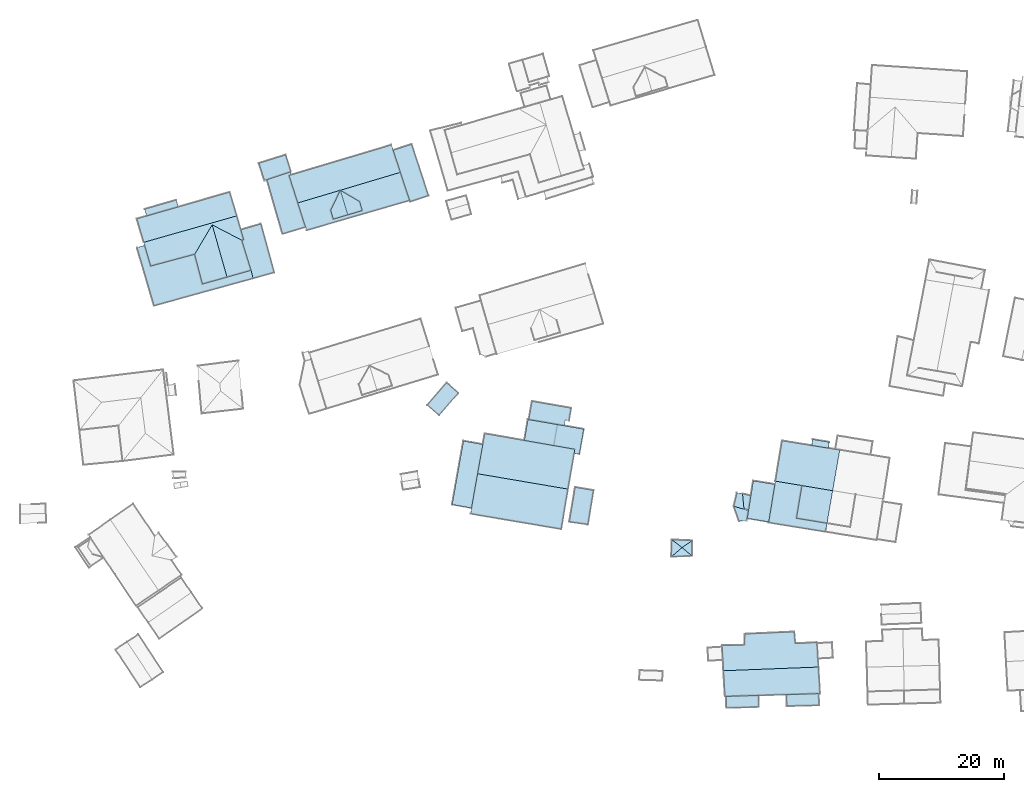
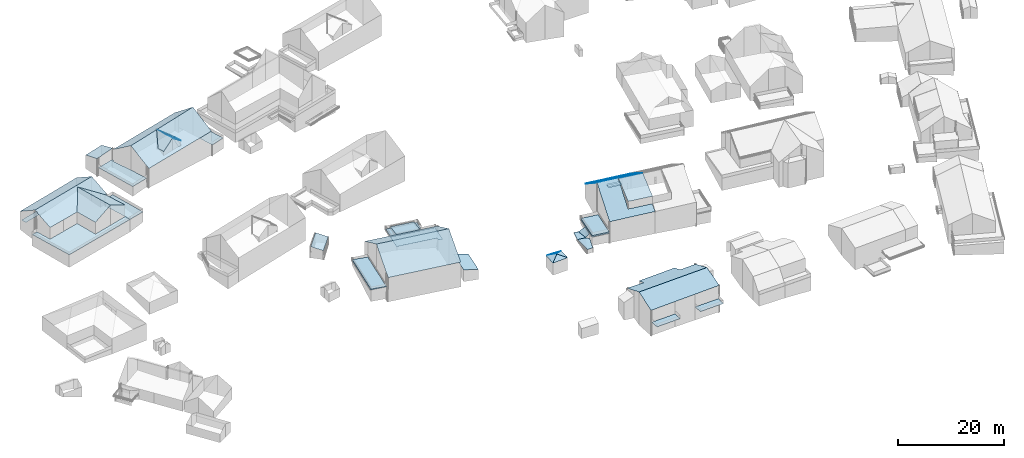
# Not in any storey, part 52 of 57: 81 roofs.
"""IFC2X3 building model written with IfcOpenShell, lengths in metres."""

from ifc_helpers import new_model, entity, si_unit, converted_unit, frame, origin, place, context, subcontext, project, spatial, face_set, surface_model, element, save


model = new_model("IFC2X3")

# Units and contexts
model_context = context("Model", 3, precision=1e-05, world=origin())
body_context = subcontext(model_context, "Body", "Model", "MODEL_VIEW")
ifc_project = project(units=[converted_unit("PLANEANGLEUNIT", "DEGREE", entity("IfcRatioMeasure", 0.0174532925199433), si_unit("PLANEANGLEUNIT", "RADIAN"), dimensions=[0, 0, 0, 0, 0, 0, 0]), si_unit("AREAUNIT", "SQUARE_METRE"), si_unit("LENGTHUNIT", "METRE")], contexts=[model_context])

# Site, building
site_placement = place(None, origin())
site = spatial("IfcSite", under=ifc_project, at=site_placement, Name="_site", CompositionType="ELEMENT")
building_1_placement = place(site_placement, origin())
building_1 = spatial("IfcBuilding", under=site, at=building_1_placement, Name="_building", CompositionType="ELEMENT")

# Roofs
for number, where, name in (
    (1, (0.0, 0.0, 0.0), "Roof"),
    (2, (0.0, 0.0, 0.0), "Roof"),
):
    element("IfcRoof", number, at=place(building_1_placement, frame(where)), inside=building_1, Name=name, ShapeType="NOTDEFINED", context=body_context, shape_type="SurfaceModel", body=[
        surface_model("IfcFaceBasedSurfaceModel", [(137.156, 142.581, 118.75), (138.632, 138.094, 118.74), (138.698, 137.892, 118.75), (141.642, 138.854, 118.75), (138.963, 147.072, 118.75), (137.47, 146.587, 118.75), (136.008, 146.11, 118.75)], [face_set([[[0, 1, 2, 3, 4, 5, 6]]])]),
    ])

# Building
building_2_placement = place(site_placement, origin())
building_2 = spatial("IfcBuilding", under=site, at=building_2_placement, Name="_building", CompositionType="ELEMENT")

# Roofs
roof_1_placement = place(building_2_placement, origin())
element("IfcRoof", 3, at=roof_1_placement, inside=building_2, Name="Roof", ShapeType="NOTDEFINED", context=body_context, shape_type="SurfaceModel", body=[
    surface_model("IfcFaceBasedSurfaceModel", [(183.722, 81.324, 111.21), (183.759, 83.774, 111.23), (182.132, 82.662, 111.82)], [face_set([[[0, 1, 2]]])]),
])
roof_2_placement = place(building_2_placement, origin())
element("IfcRoof", 4, at=roof_2_placement, inside=building_2, Name="Roof", ShapeType="NOTDEFINED", context=body_context, shape_type="SurfaceModel", body=[
    surface_model("IfcFaceBasedSurfaceModel", [(182.132, 82.662, 111.82), (180.491, 83.921, 111.23), (180.427, 81.201, 111.18)], [face_set([[[0, 1, 2]]])]),
])
roof_3_placement = place(building_2_placement, origin())
element("IfcRoof", 5, at=roof_3_placement, inside=building_2, Name="Roof", ShapeType="NOTDEFINED", context=body_context, shape_type="SurfaceModel", body=[
    surface_model("IfcFaceBasedSurfaceModel", [(180.427, 81.201, 111.18), (183.722, 81.324, 111.21), (182.132, 82.662, 111.82)], [face_set([[[0, 1, 2]]])]),
])
roof_4_placement = place(building_2_placement, origin())
element("IfcRoof", 6, at=roof_4_placement, inside=building_2, Name="Roof", ShapeType="NOTDEFINED", context=body_context, shape_type="SurfaceModel", body=[
    surface_model("IfcFaceBasedSurfaceModel", [(183.759, 83.774, 111.23), (180.491, 83.921, 111.23), (182.132, 82.662, 111.82)], [face_set([[[0, 1, 2]]])]),
])
roof_5_placement = place(building_2_placement, origin())
element("IfcRoof", 7, at=roof_5_placement, inside=building_2, Name="Roof", ShapeType="NOTDEFINED", context=body_context, shape_type="SurfaceModel", body=[
    surface_model("IfcFaceBasedSurfaceModel", [(183.722, 81.324, 111.21), (183.759, 83.774, 111.23), (182.132, 82.662, 111.82)], [face_set([[[0, 1, 2]]])]),
])
roof_6_placement = place(building_2_placement, origin())
element("IfcRoof", 8, at=roof_6_placement, inside=building_2, Name="Roof", ShapeType="NOTDEFINED", context=body_context, shape_type="SurfaceModel", body=[
    surface_model("IfcFaceBasedSurfaceModel", [(182.132, 82.662, 111.82), (180.491, 83.921, 111.23), (180.427, 81.201, 111.18)], [face_set([[[0, 1, 2]]])]),
])
roof_7_placement = place(building_2_placement, origin())
element("IfcRoof", 9, at=roof_7_placement, inside=building_2, Name="Roof", ShapeType="NOTDEFINED", context=body_context, shape_type="SurfaceModel", body=[
    surface_model("IfcFaceBasedSurfaceModel", [(180.427, 81.201, 111.18), (183.722, 81.324, 111.21), (182.132, 82.662, 111.82)], [face_set([[[0, 1, 2]]])]),
])
roof_8_placement = place(building_2_placement, origin())
element("IfcRoof", 10, at=roof_8_placement, inside=building_2, Name="Roof", ShapeType="NOTDEFINED", context=body_context, shape_type="SurfaceModel", body=[
    surface_model("IfcFaceBasedSurfaceModel", [(183.759, 83.774, 111.23), (180.491, 83.921, 111.23), (182.132, 82.662, 111.82)], [face_set([[[0, 1, 2]]])]),
])

# Building
building_3_placement = place(site_placement, origin())
building_3 = spatial("IfcBuilding", under=site, at=building_3_placement, Name="_building", CompositionType="ELEMENT")

# Roofs
roof_9_placement = place(building_3_placement, origin())
element("IfcRoof", 11, at=roof_9_placement, inside=building_3, Name="Roof", ShapeType="NOTDEFINED", context=body_context, shape_type="SurfaceModel", body=[
    surface_model("IfcFaceBasedSurfaceModel", [(96.318, 130.92, 117.72), (95.099, 130.568, 117.72), (97.824, 121.278, 117.72), (113.626, 125.643, 117.72), (113.305, 126.93, 117.72), (109.468, 125.839, 117.72), (105.549, 124.74, 117.72), (104.3, 129.492, 117.72), (97.291, 127.605, 117.72)], [face_set([[[0, 1, 2, 3, 4, 5, 6, 7, 8]]])]),
])
roof_10_placement = place(building_3_placement, origin())
element("IfcRoof", 12, at=roof_10_placement, inside=building_3, Name="Roof", ShapeType="NOTDEFINED", context=body_context, shape_type="SurfaceModel", body=[
    surface_model("IfcFaceBasedSurfaceModel", [(111.028, 135.628, 122.5), (109.915, 139.417, 120.34), (95.077, 135.161, 120.29), (96.18, 131.403, 122.5)], [face_set([[[0, 1, 2, 3]]])]),
])
roof_11_placement = place(building_3_placement, origin())
element("IfcRoof", 13, at=roof_11_placement, inside=building_3, Name="Roof", ShapeType="NOTDEFINED", context=body_context, shape_type="SurfaceModel", body=[
    surface_model("IfcFaceBasedSurfaceModel", [(111.837, 131.727, 120.35), (112.139, 131.8, 120.35), (111.676, 133.402, 121.25), (111.028, 135.628, 122.5), (96.18, 131.403, 122.5), (96.318, 130.92, 122.23), (96.337, 130.849, 122.19), (97.291, 127.605, 120.37), (100.796, 128.553, 120.37), (104.3, 129.492, 120.37), (107.092, 134.199, 122.34)], [face_set([[[0, 1, 2, 3, 4, 5, 6, 7, 8, 9, 10]]])]),
])
roof_12_placement = place(building_3_placement, origin())
element("IfcRoof", 14, at=roof_12_placement, inside=building_3, Name="Roof", ShapeType="NOTDEFINED", context=body_context, shape_type="SurfaceModel", body=[
    surface_model("IfcFaceBasedSurfaceModel", [(107.092, 134.199, 122.34), (109.468, 125.839, 122.34), (113.305, 126.93, 120.4), (111.837, 131.727, 120.35)], [face_set([[[0, 1, 2, 3]]])]),
])
roof_13_placement = place(building_3_placement, origin())
element("IfcRoof", 15, at=roof_13_placement, inside=building_3, Name="Roof", ShapeType="NOTDEFINED", context=body_context, shape_type="SurfaceModel", body=[
    surface_model("IfcFaceBasedSurfaceModel", [(96.318, 130.92, 117.72), (95.099, 130.568, 117.72), (97.824, 121.278, 117.72), (113.626, 125.643, 117.72), (113.305, 126.93, 117.72), (109.468, 125.839, 117.72), (105.549, 124.74, 117.72), (104.3, 129.492, 117.72), (97.291, 127.605, 117.72)], [face_set([[[0, 1, 2, 3, 4, 5, 6, 7, 8]]])]),
])
roof_14_placement = place(building_3_placement, origin())
element("IfcRoof", 16, at=roof_14_placement, inside=building_3, Name="Roof", ShapeType="NOTDEFINED", context=body_context, shape_type="SurfaceModel", body=[
    surface_model("IfcFaceBasedSurfaceModel", [(111.837, 131.727, 120.35), (112.139, 131.8, 120.35), (111.676, 133.402, 121.25), (111.028, 135.628, 122.5), (96.18, 131.403, 122.5), (96.318, 130.92, 122.23), (96.337, 130.849, 122.19), (97.291, 127.605, 120.37), (100.796, 128.553, 120.37), (104.3, 129.492, 120.37), (107.092, 134.199, 122.34)], [face_set([[[0, 1, 2, 3, 4, 5, 6, 7, 8, 9, 10]]])]),
])
roof_15_placement = place(building_3_placement, origin())
element("IfcRoof", 17, at=roof_15_placement, inside=building_3, Name="Roof", ShapeType="NOTDEFINED", context=body_context, shape_type="SurfaceModel", body=[
    surface_model("IfcFaceBasedSurfaceModel", [(107.092, 134.199, 122.34), (109.468, 125.839, 122.34), (113.305, 126.93, 120.4), (111.837, 131.727, 120.35)], [face_set([[[0, 1, 2, 3]]])]),
])
roof_16_placement = place(building_3_placement, origin())
element("IfcRoof", 18, at=roof_16_placement, inside=building_3, Name="Roof", ShapeType="NOTDEFINED", context=body_context, shape_type="SurfaceModel", body=[
    surface_model("IfcFaceBasedSurfaceModel", [(111.028, 135.628, 122.5), (109.915, 139.417, 120.34), (95.077, 135.161, 120.29), (96.18, 131.403, 122.5)], [face_set([[[0, 1, 2, 3]]])]),
])
roof_17_placement = place(building_3_placement, origin())
element("IfcRoof", 19, at=roof_17_placement, inside=building_3, Name="Roof", ShapeType="NOTDEFINED", context=body_context, shape_type="SurfaceModel", body=[
    surface_model("IfcFaceBasedSurfaceModel", [(107.092, 134.199, 122.34), (104.3, 129.492, 120.37), (105.549, 124.74, 120.42), (109.468, 125.839, 122.34)], [face_set([[[0, 1, 2, 3]]])]),
])
for number, where, name in (
    (20, (0.0, 0.0, 0.0), "Roof"),
    (21, (0.0, 0.0, 0.0), "Roof"),
):
    element("IfcRoof", number, at=place(building_3_placement, frame(where)), inside=building_3, Name=name, ShapeType="NOTDEFINED", context=body_context, shape_type="SurfaceModel", body=[
        surface_model("IfcFaceBasedSurfaceModel", [(101.685, 137.058, 116.92), (101.371, 138.156, 116.92), (96.304, 136.703, 116.92), (96.618, 135.605, 116.92)], [face_set([[[0, 1, 2, 3]]])]),
    ])
roof_18_placement = place(building_3_placement, origin())
element("IfcRoof", 22, at=roof_18_placement, inside=building_3, Name="Roof", ShapeType="NOTDEFINED", context=body_context, shape_type="SurfaceModel", body=[
    surface_model("IfcFaceBasedSurfaceModel", [(107.092, 134.199, 122.34), (104.3, 129.492, 120.37), (105.549, 124.74, 120.42), (109.468, 125.839, 122.34)], [face_set([[[0, 1, 2, 3]]])]),
])

# Building
building_4_placement = place(site_placement, origin())
building_4 = spatial("IfcBuilding", under=site, at=building_4_placement, Name="_building", CompositionType="ELEMENT")

# Roofs
for number, where, name in (
    (23, (0.0, 0.0, 0.0), "Roof"),
    (24, (0.0, 0.0, 0.0), "Roof"),
):
    element("IfcRoof", number, at=place(building_4_placement, frame(where)), inside=building_4, Name=name, ShapeType="NOTDEFINED", context=body_context, shape_type="SurfaceModel", body=[
        surface_model("IfcFaceBasedSurfaceModel", [(143.323, 103.783, 113.35), (146.407, 107.333, 113.35), (144.525, 108.978, 113.95), (141.44, 105.418, 113.95)], [face_set([[[0, 1, 2, 3]]])]),
    ])

# Building
building_5_placement = place(site_placement, origin())
building_5 = spatial("IfcBuilding", under=site, at=building_5_placement, Name="_building", CompositionType="ELEMENT")

# Roofs
for number, where, name in (
    (25, (0.0, 0.0, 0.0), "Roof"),
    (26, (0.0, 0.0, 0.0), "Roof"),
):
    element("IfcRoof", number, at=place(building_5_placement, frame(where)), inside=building_5, Name=name, ShapeType="NOTDEFINED", context=body_context, shape_type="SurfaceModel", body=[
        surface_model("IfcFaceBasedSurfaceModel", [(113.305, 126.93, 117.72), (113.626, 125.643, 117.72), (117.02, 126.583, 117.72), (114.89, 134.347, 117.72), (113.348, 133.893, 117.72), (111.676, 133.402, 117.72), (112.139, 131.8, 117.72), (111.837, 131.727, 117.72)], [face_set([[[0, 1, 2, 3, 4, 5, 6, 7]]])]),
    ])

# Building
building_6_placement = place(site_placement, origin())
building_6 = spatial("IfcBuilding", under=site, at=building_6_placement, Name="_building", CompositionType="ELEMENT")

# Roofs
for number, where, name in (
    (27, (0.0, 0.0, 0.0), "Roof"),
    (28, (0.0, 0.0, 0.0), "Roof"),
):
    element("IfcRoof", number, at=place(building_6_placement, frame(where)), inside=building_6, Name=name, ShapeType="NOTDEFINED", context=body_context, shape_type="SurfaceModel", body=[
        surface_model("IfcFaceBasedSurfaceModel", [(164.137, 86.766, 111.96), (167.099, 86.336, 111.26), (168.007, 91.788, 111.26), (165.057, 92.287, 111.96)], [face_set([[[0, 1, 2, 3]]])]),
    ])

# Building
building_7_placement = place(site_placement, origin())
building_7 = spatial("IfcBuilding", under=site, at=building_7_placement, Name="_building", CompositionType="ELEMENT")

# Roofs
roof_19_placement = place(building_7_placement, origin())
element("IfcRoof", 29, at=roof_19_placement, inside=building_7, Name="Roof", ShapeType="NOTDEFINED", context=body_context, shape_type="SurfaceModel", body=[
    surface_model("IfcFaceBasedSurfaceModel", [(115.856, 141.4, 121.649), (119.537, 142.633, 121.737), (119.678, 142.68, 121.74), (118.84, 145.371, 121.11), (114.566, 144.031, 121.12), (115.462, 141.268, 121.64)], [face_set([[[0, 1, 2, 3, 4, 5]]])]),
])
for number, where, name in (
    (30, (0.0, 0.0, 0.0), "Roof"),
    (31, (0.0, 0.0, 0.0), "Roof"),
):
    element("IfcRoof", number, at=place(building_7_placement, frame(where)), inside=building_7, Name=name, ShapeType="NOTDEFINED", context=body_context, shape_type="SurfaceModel", body=[
        surface_model("IfcFaceBasedSurfaceModel", [(122.003, 133.841, 119.351), (120.772, 137.692, 119.351), (119.383, 142.067, 119.192), (119.717, 142.168, 119.18), (119.537, 142.633, 119.18), (115.856, 141.4, 119.351), (118.335, 132.745, 119.351)], [face_set([[[0, 1, 2, 3, 4, 5, 6]]])]),
    ])
roof_20_placement = place(building_7_placement, origin())
element("IfcRoof", 32, at=roof_20_placement, inside=building_7, Name="Roof", ShapeType="NOTDEFINED", context=body_context, shape_type="SurfaceModel", body=[
    surface_model("IfcFaceBasedSurfaceModel", [(115.856, 141.4, 121.649), (119.537, 142.633, 121.737), (119.678, 142.68, 121.74), (118.84, 145.371, 121.11), (114.566, 144.031, 121.12), (115.462, 141.268, 121.64)], [face_set([[[0, 1, 2, 3, 4, 5]]])]),
])

# Building
building_8_placement = place(site_placement, origin())
building_8 = spatial("IfcBuilding", under=site, at=building_8_placement, Name="_building", CompositionType="ELEMENT")

# Roofs
for number, where, name in (
    (33, (0.0, 0.0, 0.0), "Roof"),
    (34, (0.0, 0.0, 0.0), "Roof"),
):
    element("IfcRoof", number, at=place(building_8_placement, frame(where)), inside=building_8, Name=name, ShapeType="NOTDEFINED", context=body_context, shape_type="SurfaceModel", body=[
        surface_model("IfcFaceBasedSurfaceModel", [(164.903, 97.694, 111.96), (165.73, 97.545, 111.96), (166.435, 101.571, 111.96), (157.526, 103.12, 111.96), (156.947, 99.762, 111.96), (157.017, 99.75, 111.96), (165.019, 98.352, 111.96)], [face_set([[[0, 1, 2, 3, 4, 5, 6]]])]),
    ])
for number, where, name in (
    (35, (0.0, 0.0, 0.0), "Roof"),
    (36, (0.0, 0.0, 0.0), "Roof"),
):
    element("IfcRoof", number, at=place(building_8_placement, frame(where)), inside=building_8, Name=name, ShapeType="NOTDEFINED", context=body_context, shape_type="SurfaceModel", body=[
        surface_model("IfcFaceBasedSurfaceModel", [(166.435, 101.571, 111.94), (157.526, 103.12, 111.94), (156.947, 99.762, 111.94), (157.017, 99.75, 111.94), (165.019, 98.352, 111.94), (164.903, 97.694, 111.94), (165.73, 97.545, 111.94)], [face_set([[[0, 1, 2, 3, 4, 5, 6]]])]),
    ])

# Building
building_9_placement = place(site_placement, origin())
building_9 = spatial("IfcBuilding", under=site, at=building_9_placement, Name="_building", CompositionType="ELEMENT")

# Roofs
roof_21_placement = place(building_9_placement, origin())
element("IfcRoof", 37, at=roof_21_placement, inside=building_9, Name="Roof", ShapeType="NOTDEFINED", context=body_context, shape_type="SurfaceModel", body=[
    surface_model("IfcFaceBasedSurfaceModel", [(150.318, 99.137, 112.25), (147.219, 99.679, 112.42), (145.41, 89.525, 112.39), (148.509, 88.972, 112.28), (149.481, 94.453, 112.264)], [face_set([[[0, 1, 2, 3, 4]]])]),
])
for number, where, name in (
    (38, (0.0, 0.0, 0.0), "Roof"),
    (39, (0.0, 0.0, 0.0), "Roof"),
):
    element("IfcRoof", number, at=place(building_9_placement, frame(where)), inside=building_9, Name=name, ShapeType="NOTDEFINED", context=body_context, shape_type="SurfaceModel", body=[
        surface_model("IfcFaceBasedSurfaceModel", [(148.509, 88.972, 112.17), (149.481, 94.453, 112.17), (150.318, 99.137, 112.17), (147.219, 99.679, 112.17), (145.41, 89.525, 112.17)], [face_set([[[0, 1, 2, 3, 4]]])]),
    ])
roof_22_placement = place(building_9_placement, origin())
element("IfcRoof", 40, at=roof_22_placement, inside=building_9, Name="Roof", ShapeType="NOTDEFINED", context=body_context, shape_type="SurfaceModel", body=[
    surface_model("IfcFaceBasedSurfaceModel", [(150.318, 99.137, 112.25), (147.219, 99.679, 112.42), (145.41, 89.525, 112.39), (148.509, 88.972, 112.28), (149.481, 94.453, 112.264)], [face_set([[[0, 1, 2, 3, 4]]])]),
])

# Building
building_10_placement = place(site_placement, origin())
building_10 = spatial("IfcBuilding", under=site, at=building_10_placement, Name="_building", CompositionType="ELEMENT")

# Roofs
roof_23_placement = place(building_10_placement, origin())
element("IfcRoof", 41, at=roof_23_placement, inside=building_10, Name="Roof", ShapeType="NOTDEFINED", context=body_context, shape_type="SurfaceModel", body=[
    surface_model("IfcFaceBasedSurfaceModel", [(205.488, 98.535, 112.12), (202.816, 98.958, 112.11), (198.101, 99.719, 112.11), (197.04, 93.27, 116.59), (201.276, 92.562, 116.588), (206.181, 91.749, 116.585), (207.312, 98.242, 112.12)], [face_set([[[0, 1, 2, 3, 4, 5, 6]]])]),
])
roof_24_placement = place(building_10_placement, origin())
element("IfcRoof", 42, at=roof_24_placement, inside=building_10, Name="Roof", ShapeType="NOTDEFINED", context=body_context, shape_type="SurfaceModel", body=[
    surface_model("IfcFaceBasedSurfaceModel", [(201.276, 92.562, 116.58), (200.403, 87.337, 114.72), (205.272, 86.532, 114.72), (206.181, 91.749, 116.58)], [face_set([[[0, 1, 2, 3]]])]),
])
roof_25_placement = place(building_10_placement, origin())
element("IfcRoof", 43, at=roof_25_placement, inside=building_10, Name="Roof", ShapeType="NOTDEFINED", context=body_context, shape_type="SurfaceModel", body=[
    surface_model("IfcFaceBasedSurfaceModel", [(205.488, 98.535, 110.22), (205.641, 99.503, 110.22), (202.969, 99.935, 110.22), (202.816, 98.958, 110.22)], [face_set([[[0, 1, 2, 3]]])]),
])
roof_26_placement = place(building_10_placement, origin())
element("IfcRoof", 44, at=roof_26_placement, inside=building_10, Name="Roof", ShapeType="NOTDEFINED", context=body_context, shape_type="SurfaceModel", body=[
    surface_model("IfcFaceBasedSurfaceModel", [(196.958, 92.761, 116.24), (195.977, 86.76, 112.09), (195.954, 86.641, 112.01), (205.035, 85.168, 112.09), (205.272, 86.532, 112.995), (200.403, 87.337, 112.986), (201.276, 92.562, 116.588), (197.04, 93.27, 116.59)], [face_set([[[0, 1, 2, 3, 4, 5, 6, 7]]])]),
])
roof_27_placement = place(building_10_placement, origin())
element("IfcRoof", 45, at=roof_27_placement, inside=building_10, Name="Roof", ShapeType="NOTDEFINED", context=body_context, shape_type="SurfaceModel", body=[
    surface_model("IfcFaceBasedSurfaceModel", [(205.488, 98.535, 112.12), (202.816, 98.958, 112.11), (198.101, 99.719, 112.11), (197.04, 93.27, 116.59), (201.276, 92.562, 116.588), (206.181, 91.749, 116.585), (207.312, 98.242, 112.12)], [face_set([[[0, 1, 2, 3, 4, 5, 6]]])]),
])
roof_28_placement = place(building_10_placement, origin())
element("IfcRoof", 46, at=roof_28_placement, inside=building_10, Name="Roof", ShapeType="NOTDEFINED", context=body_context, shape_type="SurfaceModel", body=[
    surface_model("IfcFaceBasedSurfaceModel", [(201.276, 92.562, 116.58), (200.403, 87.337, 114.72), (205.272, 86.532, 114.72), (206.181, 91.749, 116.58)], [face_set([[[0, 1, 2, 3]]])]),
])
roof_29_placement = place(building_10_placement, origin())
element("IfcRoof", 47, at=roof_29_placement, inside=building_10, Name="Roof", ShapeType="NOTDEFINED", context=body_context, shape_type="SurfaceModel", body=[
    surface_model("IfcFaceBasedSurfaceModel", [(205.488, 98.535, 110.22), (205.641, 99.503, 110.22), (202.969, 99.935, 110.22), (202.816, 98.958, 110.22)], [face_set([[[0, 1, 2, 3]]])]),
])
for number, where, name in (
    (48, (0.0, 0.0, 0.0), "Roof"),
    (49, (0.0, 0.0, 0.0), "Roof"),
):
    element("IfcRoof", number, at=place(building_10_placement, frame(where)), inside=building_10, Name=name, ShapeType="NOTDEFINED", context=body_context, shape_type="SurfaceModel", body=[
        surface_model("IfcFaceBasedSurfaceModel", [(202.816, 98.958, 109.94), (205.488, 98.535, 109.94), (205.641, 99.503, 109.94), (202.969, 99.935, 109.94)], [face_set([[[0, 1, 2, 3]]])]),
    ])
roof_30_placement = place(building_10_placement, origin())
element("IfcRoof", 50, at=roof_30_placement, inside=building_10, Name="Roof", ShapeType="NOTDEFINED", context=body_context, shape_type="SurfaceModel", body=[
    surface_model("IfcFaceBasedSurfaceModel", [(196.958, 92.761, 116.24), (195.977, 86.76, 112.09), (195.954, 86.641, 112.01), (205.035, 85.168, 112.09), (205.272, 86.532, 112.995), (200.403, 87.337, 112.986), (201.276, 92.562, 116.588), (197.04, 93.27, 116.59)], [face_set([[[0, 1, 2, 3, 4, 5, 6, 7]]])]),
])

# Building
building_11_placement = place(site_placement, origin())
building_11 = spatial("IfcBuilding", under=site, at=building_11_placement, Name="_building", CompositionType="ELEMENT")

# Roofs
roof_31_placement = place(building_11_placement, origin())
element("IfcRoof", 51, at=roof_31_placement, inside=building_11, Name="Roof", ShapeType="NOTDEFINED", context=body_context, shape_type="SurfaceModel", body=[
    surface_model("IfcFaceBasedSurfaceModel", [(149.481, 94.453, 118.39), (148.509, 88.972, 115.41), (148.348, 88.056, 114.91), (162.839, 85.605, 114.91), (163.909, 91.994, 118.39)], [face_set([[[0, 1, 2, 3, 4]]])]),
])
roof_32_placement = place(building_11_placement, origin())
element("IfcRoof", 52, at=roof_32_placement, inside=building_11, Name="Roof", ShapeType="NOTDEFINED", context=body_context, shape_type="SurfaceModel", body=[
    surface_model("IfcFaceBasedSurfaceModel", [(163.909, 91.994, 118.39), (164.903, 97.694, 115.11), (165.019, 98.352, 114.73), (156.947, 99.762, 114.73), (150.619, 100.861, 114.73), (150.318, 99.137, 115.72), (149.481, 94.453, 118.39)], [face_set([[[0, 1, 2, 3, 4, 5, 6]]])]),
])
roof_33_placement = place(building_11_placement, origin())
element("IfcRoof", 53, at=roof_33_placement, inside=building_11, Name="Roof", ShapeType="NOTDEFINED", context=body_context, shape_type="SurfaceModel", body=[
    surface_model("IfcFaceBasedSurfaceModel", [(149.481, 94.453, 118.39), (148.509, 88.972, 115.41), (148.348, 88.056, 114.91), (162.839, 85.605, 114.91), (163.909, 91.994, 118.39)], [face_set([[[0, 1, 2, 3, 4]]])]),
])
roof_34_placement = place(building_11_placement, origin())
element("IfcRoof", 54, at=roof_34_placement, inside=building_11, Name="Roof", ShapeType="NOTDEFINED", context=body_context, shape_type="SurfaceModel", body=[
    surface_model("IfcFaceBasedSurfaceModel", [(163.909, 91.994, 118.39), (164.903, 97.694, 115.11), (165.019, 98.352, 114.73), (156.947, 99.762, 114.73), (150.619, 100.861, 114.73), (150.318, 99.137, 115.72), (149.481, 94.453, 118.39)], [face_set([[[0, 1, 2, 3, 4, 5, 6]]])]),
])

# Building
building_12_placement = place(site_placement, origin())
building_12 = spatial("IfcBuilding", under=site, at=building_12_placement, Name="_building", CompositionType="ELEMENT")

# Roofs
roof_35_placement = place(building_12_placement, origin())
element("IfcRoof", 55, at=roof_35_placement, inside=building_12, Name="Roof", ShapeType="NOTDEFINED", context=body_context, shape_type="SurfaceModel", body=[
    surface_model("IfcFaceBasedSurfaceModel", [(127.561, 139.715, 125.033), (126.018, 136.518, 123.2), (126.445, 135.097, 123.21), (128.752, 135.784, 125.04)], [face_set([[[0, 1, 2, 3]]])]),
])
roof_36_placement = place(building_12_placement, origin())
element("IfcRoof", 56, at=roof_36_placement, inside=building_12, Name="Roof", ShapeType="NOTDEFINED", context=body_context, shape_type="SurfaceModel", body=[
    surface_model("IfcFaceBasedSurfaceModel", [(127.561, 139.715, 125.033), (128.752, 135.784, 125.04), (131.07, 136.47, 123.25), (130.643, 137.891, 123.235)], [face_set([[[0, 1, 2, 3]]])]),
])
roof_37_placement = place(building_12_placement, origin())
element("IfcRoof", 57, at=roof_37_placement, inside=building_12, Name="Roof", ShapeType="NOTDEFINED", context=body_context, shape_type="SurfaceModel", body=[
    surface_model("IfcFaceBasedSurfaceModel", [(127.561, 139.715, 125.045), (120.772, 137.692, 124.95), (122.003, 133.841, 122.213), (122.17, 133.316, 121.84), (138.632, 138.094, 121.82), (137.156, 142.581, 125.18)], [face_set([[[0, 1, 2, 3, 4, 5]]])]),
])
roof_38_placement = place(building_12_placement, origin())
element("IfcRoof", 58, at=roof_38_placement, inside=building_12, Name="Roof", ShapeType="NOTDEFINED", context=body_context, shape_type="SurfaceModel", body=[
    surface_model("IfcFaceBasedSurfaceModel", [(127.561, 139.715, 125.033), (128.752, 135.784, 125.04), (131.07, 136.47, 123.25), (130.643, 137.891, 123.235)], [face_set([[[0, 1, 2, 3]]])]),
])
roof_39_placement = place(building_12_placement, origin())
element("IfcRoof", 59, at=roof_39_placement, inside=building_12, Name="Roof", ShapeType="NOTDEFINED", context=body_context, shape_type="SurfaceModel", body=[
    surface_model("IfcFaceBasedSurfaceModel", [(127.561, 139.715, 125.033), (126.018, 136.518, 123.2), (126.445, 135.097, 123.21), (128.752, 135.784, 125.04)], [face_set([[[0, 1, 2, 3]]])]),
])
roof_40_placement = place(building_12_placement, origin())
element("IfcRoof", 60, at=roof_40_placement, inside=building_12, Name="Roof", ShapeType="NOTDEFINED", context=body_context, shape_type="SurfaceModel", body=[
    surface_model("IfcFaceBasedSurfaceModel", [(127.561, 139.715, 125.045), (137.156, 142.581, 125.18), (136.008, 146.11, 122.4), (135.728, 146.957, 121.73), (119.717, 142.168, 121.877), (119.383, 142.067, 121.88), (120.772, 137.692, 124.95)], [face_set([[[0, 1, 2, 3, 4, 5, 6]]])]),
])
roof_41_placement = place(building_12_placement, origin())
element("IfcRoof", 61, at=roof_41_placement, inside=building_12, Name="Roof", ShapeType="NOTDEFINED", context=body_context, shape_type="SurfaceModel", body=[
    surface_model("IfcFaceBasedSurfaceModel", [(127.561, 139.715, 125.045), (120.772, 137.692, 124.95), (122.003, 133.841, 122.213), (122.17, 133.316, 121.84), (138.632, 138.094, 121.82), (137.156, 142.581, 125.18)], [face_set([[[0, 1, 2, 3, 4, 5]]])]),
])
roof_42_placement = place(building_12_placement, origin())
element("IfcRoof", 62, at=roof_42_placement, inside=building_12, Name="Roof", ShapeType="NOTDEFINED", context=body_context, shape_type="SurfaceModel", body=[
    surface_model("IfcFaceBasedSurfaceModel", [(128.752, 135.784, 122.196), (131.07, 136.47, 122.211), (130.643, 137.891, 123.237), (127.561, 139.715, 125.035), (126.018, 136.518, 123.203), (126.445, 135.097, 122.177)], [face_set([[[0, 1, 2, 3, 4, 5]]])]),
])
roof_43_placement = place(building_12_placement, origin())
element("IfcRoof", 63, at=roof_43_placement, inside=building_12, Name="Roof", ShapeType="NOTDEFINED", context=body_context, shape_type="SurfaceModel", body=[
    surface_model("IfcFaceBasedSurfaceModel", [(127.561, 139.715, 125.045), (137.156, 142.581, 125.18), (136.008, 146.11, 122.4), (135.728, 146.957, 121.73), (119.717, 142.168, 121.877), (119.383, 142.067, 121.88), (120.772, 137.692, 124.95)], [face_set([[[0, 1, 2, 3, 4, 5, 6]]])]),
])

# Building
building_13_placement = place(site_placement, origin())
building_13 = spatial("IfcBuilding", under=site, at=building_13_placement, Name="_building", CompositionType="ELEMENT")

# Roofs
roof_44_placement = place(building_13_placement, origin())
element("IfcRoof", 64, at=roof_44_placement, inside=building_13, Name="Roof", ShapeType="NOTDEFINED", context=body_context, shape_type="SurfaceModel", body=[
    surface_model("IfcFaceBasedSurfaceModel", [(188.746, 62.995, 112.64), (188.99, 58.887, 110.78), (189.171, 58.893, 110.783), (194.347, 59.048, 110.858), (198.813, 59.179, 110.922), (203.97, 59.335, 110.997), (204.18, 59.341, 111.0), (203.919, 63.58, 112.64)], [face_set([[[0, 1, 2, 3, 4, 5, 6, 7]]])]),
])
roof_45_placement = place(building_13_placement, origin())
element("IfcRoof", 65, at=roof_45_placement, inside=building_13, Name="Roof", ShapeType="NOTDEFINED", context=body_context, shape_type="SurfaceModel", body=[
    surface_model("IfcFaceBasedSurfaceModel", [(203.919, 63.58, 112.64), (203.84, 64.913, 112.11), (203.688, 67.358, 111.16), (203.671, 67.509, 111.1), (200.235, 67.349, 111.12), (200.059, 69.214, 110.47), (192.156, 68.859, 110.47), (192.105, 67.109, 111.13), (188.52, 67.023, 111.16), (188.535, 66.802, 111.24), (188.656, 64.698, 112.01), (188.746, 62.995, 112.64)], [face_set([[[0, 1, 2, 3, 4, 5, 6, 7, 8, 9, 10, 11]]])]),
])
roof_46_placement = place(building_13_placement, origin())
element("IfcRoof", 66, at=roof_46_placement, inside=building_13, Name="Roof", ShapeType="NOTDEFINED", context=body_context, shape_type="SurfaceModel", body=[
    surface_model("IfcFaceBasedSurfaceModel", [(188.746, 62.995, 112.64), (188.99, 58.887, 110.78), (189.171, 58.893, 110.783), (194.347, 59.048, 110.858), (198.813, 59.179, 110.922), (203.97, 59.335, 110.997), (204.18, 59.341, 111.0), (203.919, 63.58, 112.64)], [face_set([[[0, 1, 2, 3, 4, 5, 6, 7]]])]),
])
roof_47_placement = place(building_13_placement, origin())
element("IfcRoof", 67, at=roof_47_placement, inside=building_13, Name="Roof", ShapeType="NOTDEFINED", context=body_context, shape_type="SurfaceModel", body=[
    surface_model("IfcFaceBasedSurfaceModel", [(203.919, 63.58, 112.64), (203.84, 64.913, 112.11), (203.688, 67.358, 111.16), (203.671, 67.509, 111.1), (200.235, 67.349, 111.12), (200.059, 69.214, 110.47), (192.156, 68.859, 110.47), (192.105, 67.109, 111.13), (188.52, 67.023, 111.16), (188.535, 66.802, 111.24), (188.656, 64.698, 112.01), (188.746, 62.995, 112.64)], [face_set([[[0, 1, 2, 3, 4, 5, 6, 7, 8, 9, 10, 11]]])]),
])
roof_48_placement = place(building_13_placement, origin())
element("IfcRoof", 68, at=roof_48_placement, inside=building_13, Name="Roof", ShapeType="NOTDEFINED", context=body_context, shape_type="SurfaceModel", body=[
    surface_model("IfcFaceBasedSurfaceModel", [(203.97, 59.335, 107.99), (198.813, 59.179, 107.99), (198.87, 57.325, 107.99), (204.027, 57.474, 107.99)], [face_set([[[0, 1, 2, 3]]])]),
])
roof_49_placement = place(building_13_placement, origin())
element("IfcRoof", 69, at=roof_49_placement, inside=building_13, Name="Roof", ShapeType="NOTDEFINED", context=body_context, shape_type="SurfaceModel", body=[
    surface_model("IfcFaceBasedSurfaceModel", [(194.347, 59.048, 108.01), (189.171, 58.893, 108.01), (189.228, 57.05, 108.01), (194.404, 57.209, 108.01)], [face_set([[[0, 1, 2, 3]]])]),
])
roof_50_placement = place(building_13_placement, origin())
element("IfcRoof", 70, at=roof_50_placement, inside=building_13, Name="Roof", ShapeType="NOTDEFINED", context=body_context, shape_type="SurfaceModel", body=[
    surface_model("IfcFaceBasedSurfaceModel", [(203.97, 59.335, 107.99), (198.813, 59.179, 107.99), (198.87, 57.325, 107.99), (204.027, 57.474, 107.99)], [face_set([[[0, 1, 2, 3]]])]),
])
roof_51_placement = place(building_13_placement, origin())
element("IfcRoof", 71, at=roof_51_placement, inside=building_13, Name="Roof", ShapeType="NOTDEFINED", context=body_context, shape_type="SurfaceModel", body=[
    surface_model("IfcFaceBasedSurfaceModel", [(194.347, 59.048, 108.01), (189.171, 58.893, 108.01), (189.228, 57.05, 108.01), (194.404, 57.209, 108.01)], [face_set([[[0, 1, 2, 3]]])]),
])

# Building
building_14_placement = place(site_placement, origin())
building_14 = spatial("IfcBuilding", under=site, at=building_14_placement, Name="_building", CompositionType="ELEMENT")

# Roofs
for number, where, name in (
    (72, (0.0, 0.0, 0.0), "Roof"),
    (73, (0.0, 0.0, 0.0), "Roof"),
):
    element("IfcRoof", number, at=place(building_14_placement, frame(where)), inside=building_14, Name=name, ShapeType="NOTDEFINED", context=body_context, shape_type="SurfaceModel", body=[
        surface_model("IfcFaceBasedSurfaceModel", [(156.947, 99.762, 114.73), (161.651, 98.941, 114.73), (162.239, 102.3, 114.33), (157.526, 103.12, 114.33)], [face_set([[[0, 1, 2, 3]]])]),
    ])
for number, where, name in (
    (74, (0.0, 0.0, 0.0), "Roof"),
    (75, (0.0, 0.0, 0.0), "Roof"),
):
    element("IfcRoof", number, at=place(building_14_placement, frame(where)), inside=building_14, Name=name, ShapeType="NOTDEFINED", context=body_context, shape_type="SurfaceModel", body=[
        surface_model("IfcFaceBasedSurfaceModel", [(157.655, 103.097, 111.8), (163.326, 102.114, 111.8), (163.487, 103.021, 111.8), (164.075, 102.917, 111.8), (164.432, 104.93, 111.8), (158.174, 106.027, 111.8)], [face_set([[[0, 1, 2, 3, 4, 5]]])]),
    ])

# Building
building_15_placement = place(site_placement, origin())
building_15 = spatial("IfcBuilding", under=site, at=building_15_placement, Name="_building", CompositionType="ELEMENT")

# Roofs
roof_52_placement = place(building_15_placement, origin())
element("IfcRoof", 76, at=roof_52_placement, inside=building_15, Name="Roof", ShapeType="NOTDEFINED", context=body_context, shape_type="SurfaceModel", body=[
    surface_model("IfcFaceBasedSurfaceModel", [(196.958, 92.761, 109.28), (193.498, 93.313, 109.28), (192.538, 87.311, 109.28), (195.977, 86.76, 109.28)], [face_set([[[0, 1, 2, 3]]])]),
])
roof_53_placement = place(building_15_placement, origin())
element("IfcRoof", 77, at=roof_53_placement, inside=building_15, Name="Roof", ShapeType="NOTDEFINED", context=body_context, shape_type="SurfaceModel", body=[
    surface_model("IfcFaceBasedSurfaceModel", [(192.737, 88.577, 108.07), (191.962, 88.796, 108.38), (192.005, 88.905, 108.39), (192.76, 88.677, 109.09), (193.123, 90.96, 109.2), (191.789, 91.231, 108.39), (190.893, 91.422, 108.37), (190.401, 89.242, 108.27), (191.246, 86.851, 107.09), (192.459, 86.963, 107.04)], [face_set([[[0, 1, 2, 3, 4, 5, 6, 7, 8, 9]]])]),
])
roof_54_placement = place(building_15_placement, origin())
element("IfcRoof", 78, at=roof_54_placement, inside=building_15, Name="Roof", ShapeType="NOTDEFINED", context=body_context, shape_type="SurfaceModel", body=[
    surface_model("IfcFaceBasedSurfaceModel", [(196.958, 92.761, 109.28), (193.498, 93.313, 109.28), (192.538, 87.311, 109.28), (195.977, 86.76, 109.28)], [face_set([[[0, 1, 2, 3]]])]),
])
for number, where, name in (
    (79, (0.0, 0.0, 0.0), "Roof"),
    (80, (0.0, 0.0, 0.0), "Roof"),
):
    element("IfcRoof", number, at=place(building_15_placement, frame(where)), inside=building_15, Name=name, ShapeType="NOTDEFINED", context=body_context, shape_type="SurfaceModel", body=[
        surface_model("IfcFaceBasedSurfaceModel", [(195.977, 86.76, 109.6), (196.958, 92.761, 109.6), (193.498, 93.313, 109.6), (192.538, 87.311, 109.6)], [face_set([[[0, 1, 2, 3]]])]),
    ])
roof_55_placement = place(building_15_placement, origin())
element("IfcRoof", 81, at=roof_55_placement, inside=building_15, Name="Roof", ShapeType="NOTDEFINED", context=body_context, shape_type="SurfaceModel", body=[
    surface_model("IfcFaceBasedSurfaceModel", [(192.737, 88.577, 108.07), (191.962, 88.796, 108.38), (192.005, 88.905, 108.39), (192.76, 88.677, 109.09), (193.123, 90.96, 109.2), (191.789, 91.231, 108.39), (190.893, 91.422, 108.37), (190.401, 89.242, 108.27), (191.246, 86.851, 107.09), (192.459, 86.963, 107.04)], [face_set([[[0, 1, 2, 3, 4, 5, 6, 7, 8, 9]]])]),
])

save(model, "model.ifc")
